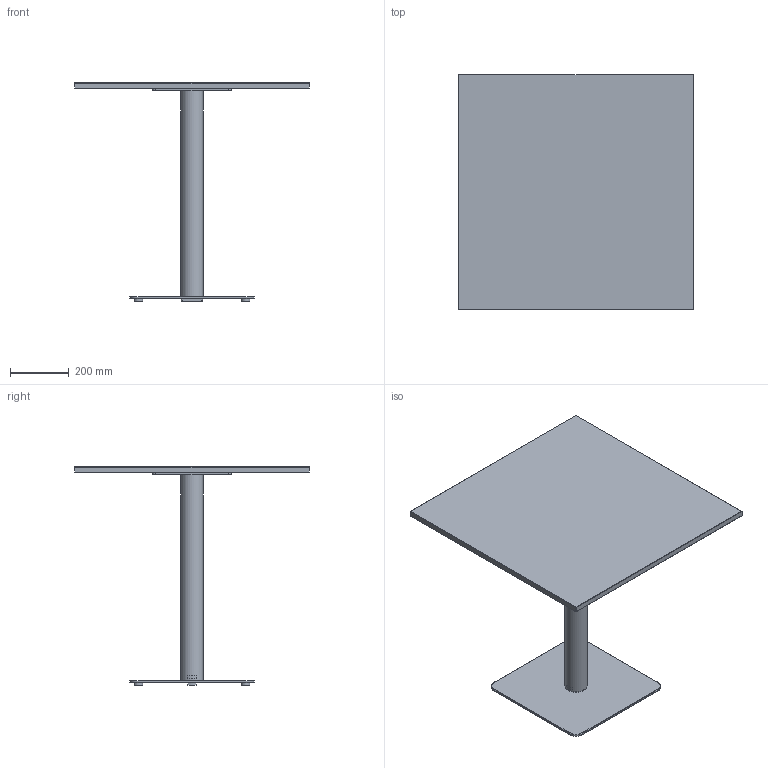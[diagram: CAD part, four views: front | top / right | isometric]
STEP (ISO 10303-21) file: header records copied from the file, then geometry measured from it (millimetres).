
FILE_DESCRIPTION( ('This file contains a STEP AP42 implementation' ,'as created by ZW3D STEP Interface translator.') ,'2;1' );
FILE_NAME( 'Henri - B_Carré - F4 - M1 - 800 x 800 x 750.stp' ,'24 912.172124', (''), ('ZWCAD Software Co.'), 'Version 1.0', 'ZW3D to STEP translator', '' );
FILE_SCHEMA(('AUTOMOTIVE_DESIGN { 1 0 10303 214 1 1 1 1 }'));
Length unit declared in the file: millimetre
Products named in the file (14): 0; PIED BISTROT PARAMETRIQUE_; COLONNE ACIER Ø76 V.02_; TUB-D076-02_; PLA-R76B-01_; CROIX ACIER 370 V.02_; CRX-X370-02_; SOCLE ACIER L 425x425 V.02_; SCL-R425-02_; PLA-R30A-01_; PLA-R30A-01; WUERTH 0276063020 Euro-screw 6.3x2 Verzinkt_; PLATEAU BISTROT PARAMETRIQUE_; insert_m6_13_
Assembly tree (22 placements, depth 3):
  0
  PIED BISTROT PARAMETRIQUE_
    COLONNE ACIER Ø76 V.02_
      TUB-D076-02_
      PLA-R76B-01_  x2
    CROIX ACIER 370 V.02_
      CRX-X370-02_
    SOCLE ACIER L 425x425 V.02_
      SCL-R425-02_
      PLA-R30A-01_
      PLA-R30A-01  x3
    WUERTH 0276063020 Euro-screw 6.3x2 Verzinkt_
    PLATEAU BISTROT PARAMETRIQUE_
      insert_m6_13_  x8
Bounding box: 800 x 800 x 744 mm (x, y, z)
Volume: 15170606.5 mm3; surface area: 2231637.5 mm2
Topology: 19 solids, 19 shells, 537 faces, 1310 edges, 814 vertices
Faces by surface type: plane 262, bspline 129, cylinder 98, cone 47, torus 1
Full cylindrical faces by diameter (mm): 4.88 x1, 6 x8, 6.3 x1, 8 x45, 12 x2, 14 x2, 30 x4, 72 x1, 76 x1
Entity records: 12222 total; most frequent: CARTESIAN_POINT 3436, ORIENTED_EDGE 1608, DIRECTION 1471, EDGE_CURVE 804, VECTOR 513, LINE 513, VERTEX_POINT 510, AXIS2_PLACEMENT_3D 479
